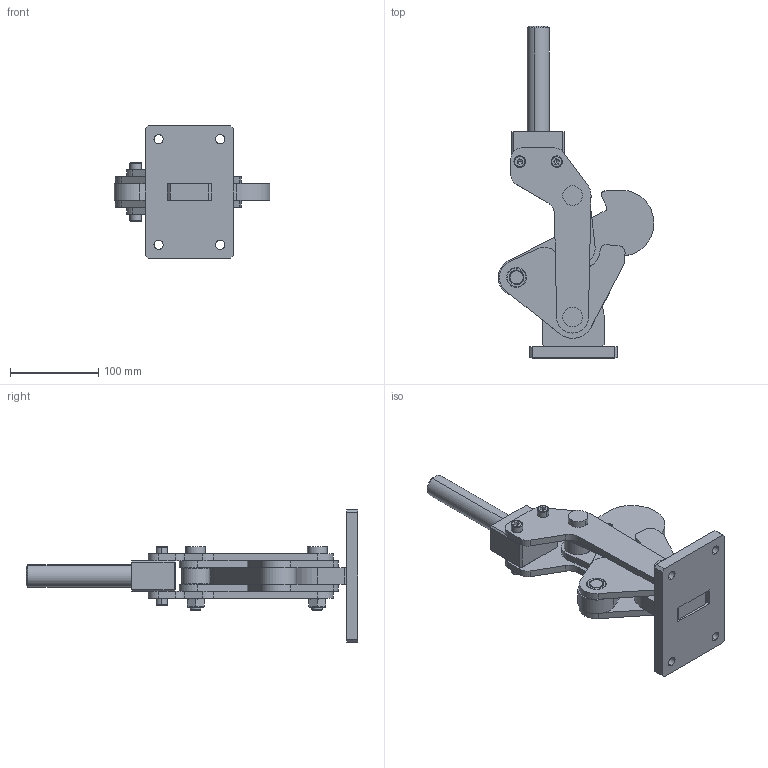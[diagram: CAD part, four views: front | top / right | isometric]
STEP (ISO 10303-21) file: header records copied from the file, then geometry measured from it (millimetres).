
FILE_DESCRIPTION (( 'STEP AP203' ), '1' );
FILE_NAME ('KFU-08 D.STEP', '2012-11-05T19:36:11', ( 'Ricardo' ), ( '' ), 'SwSTEP 2.0', 'SolidWorks 2012', '' );
FILE_SCHEMA (( 'CONFIG_CONTROL_DESIGN' ));
Length unit declared in the file: millimetre
Products named in the file (16): KFU-08 D; 05.20043; 01.20016; 12.50063; 11.50004; 05.20045; 12.50062; 16.20089; 05.20044; 15.20019; 15.10080; 15.10079; 08.10061; 03.15021; 02.11066; 02.10035
Assembly tree (31 placements, depth 2):
  KFU-08 D
    02.10035
    02.11066
    03.15021
    08.10061  x2
    15.10079  x2
    15.10080  x2
    15.20019
    05.20044  x8
    16.20089  x2
    12.50062  x2
    05.20045
    11.50004  x2
    12.50063  x4
    01.20016
    05.20043
Bounding box: 176.86 x 376.7 x 150 mm (x, y, z)
Volume: 990244.9 mm3; surface area: 252109.2 mm2
Topology: 31 solids, 31 shells, 537 faces, 1206 edges, 741 vertices
Faces by surface type: plane 207, cylinder 184, cone 130, torus 16
Entity records: 9787 total; most frequent: DIRECTION 1421, CARTESIAN_POINT 1407, ORIENTED_EDGE 1198, EDGE_CURVE 599, AXIS2_PLACEMENT_3D 544, VERTEX_POINT 378, VECTOR 333, LINE 333
